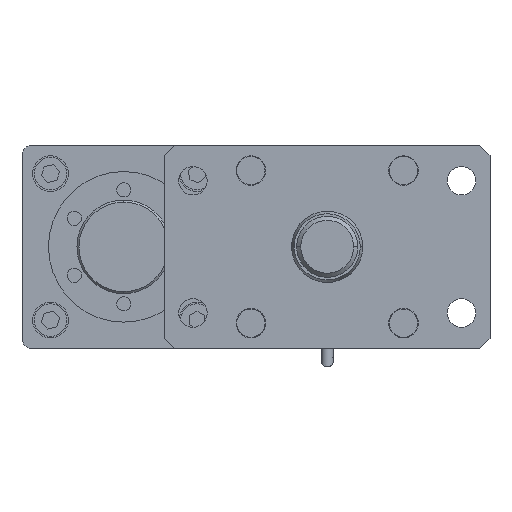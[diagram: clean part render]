
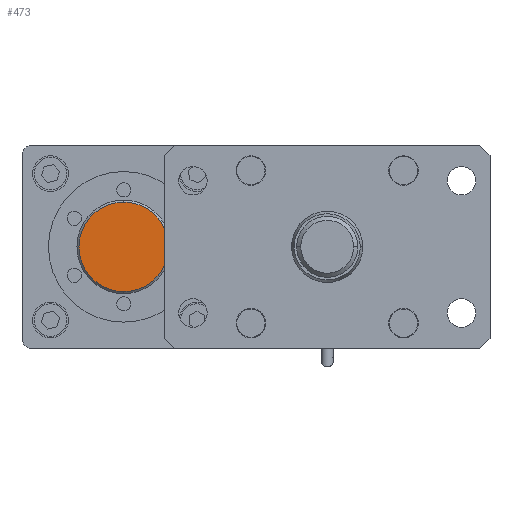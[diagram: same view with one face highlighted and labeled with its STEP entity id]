
A CAD part, front view. The second image highlights one B-rep face of the part: STEP entity #473.
In plain terms, the highlighted planar face has unit normal (0, -1, 0).
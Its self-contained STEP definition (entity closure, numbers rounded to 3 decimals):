
#285 = CARTESIAN_POINT ( 'NONE',  ( -100., -94., 0. ) ) ;
#473 = ADVANCED_FACE ( 'NONE', ( #16777 ), #9129, .T. ) ;
#499 = CIRCLE ( 'NONE', #13499, 22. ) ;
#1565 = DIRECTION ( 'NONE',  ( 0., 0., -1. ) ) ;
#1664 = DIRECTION ( 'NONE',  ( 0., -1., 0. ) ) ;
#2124 = VERTEX_POINT ( 'NONE', #10101 ) ;
#2467 = VERTEX_POINT ( 'NONE', #13791 ) ;
#3587 = AXIS2_PLACEMENT_3D ( 'NONE', #285, #6140, #16780 ) ;
#4153 = EDGE_CURVE ( 'NONE', #2467, #2124, #19827, .T. ) ;
#5599 = ORIENTED_EDGE ( 'NONE', *, *, #4153, .T. ) ;
#6140 = DIRECTION ( 'NONE',  ( 0., -1., 0. ) ) ;
#6377 = AXIS2_PLACEMENT_3D ( 'NONE', #11677, #1664, #13396 ) ;
#9129 = PLANE ( 'NONE',  #3587 ) ;
#10101 = CARTESIAN_POINT ( 'NONE',  ( -100., -94., -22. ) ) ;
#11548 = DIRECTION ( 'NONE',  ( 0., -1., 0. ) ) ;
#11677 = CARTESIAN_POINT ( 'NONE',  ( -100., -94., 0. ) ) ;
#11900 = EDGE_LOOP ( 'NONE', ( #5599, #15165 ) ) ;
#13396 = DIRECTION ( 'NONE',  ( 0., 0., -1. ) ) ;
#13499 = AXIS2_PLACEMENT_3D ( 'NONE', #21747, #11548, #1565 ) ;
#13791 = CARTESIAN_POINT ( 'NONE',  ( -100., -94., 22. ) ) ;
#14445 = EDGE_CURVE ( 'NONE', #2124, #2467, #499, .T. ) ;
#15165 = ORIENTED_EDGE ( 'NONE', *, *, #14445, .T. ) ;
#16777 = FACE_OUTER_BOUND ( 'NONE', #11900, .T. ) ;
#16780 = DIRECTION ( 'NONE',  ( 0., 0., -1. ) ) ;
#19827 = CIRCLE ( 'NONE', #6377, 22. ) ;
#21747 = CARTESIAN_POINT ( 'NONE',  ( -100., -94., 0. ) ) ;
